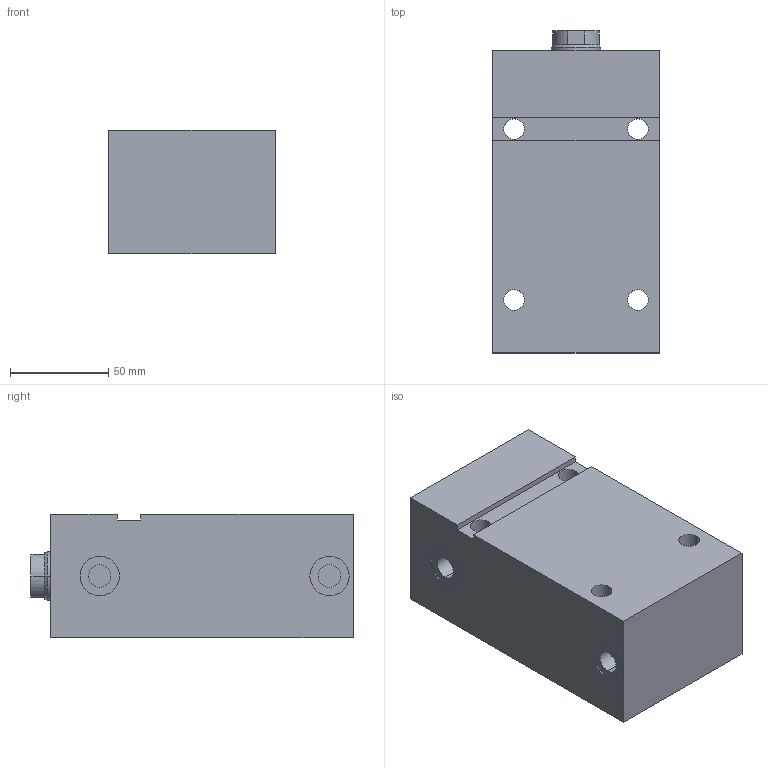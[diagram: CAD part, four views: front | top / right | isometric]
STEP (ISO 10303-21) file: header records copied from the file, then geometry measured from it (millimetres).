
FILE_DESCRIPTION (( 'STEP AP203' ), '1' );
FILE_NAME ('GERMA_Blockzylinder_602-040-100.STEP', '2016-04-06T15:56:06', ( '' ), ( '' ), 'SwSTEP 2.0', 'SolidWorks 2015', '' );
FILE_SCHEMA (( 'CONFIG_CONTROL_DESIGN' ));
Length unit declared in the file: millimetre
Products named in the file (3): GERMA_Blockzylinder_602-040-100; GH-600-040_GH-602-040-100; Kolben 60x-040_Kolben DU.40-Hub100-IG
Assembly tree (2 placements, depth 2):
  GERMA_Blockzylinder_602-040-100
    GH-600-040_GH-602-040-100
    Kolben 60x-040_Kolben DU.40-Hub100-IG
Bounding box: 85 x 164 x 63 mm (x, y, z)
Volume: 719565 mm3; surface area: 100196 mm2
Topology: 2 solids, 2 shells, 77 faces, 172 edges, 106 vertices
Faces by surface type: cylinder 37, plane 26, cone 14
Entity records: 2434 total; most frequent: DIRECTION 415, CARTESIAN_POINT 354, ORIENTED_EDGE 332, AXIS2_PLACEMENT_3D 167, EDGE_CURVE 166, VERTEX_POINT 106, EDGE_LOOP 98, CIRCLE 85
